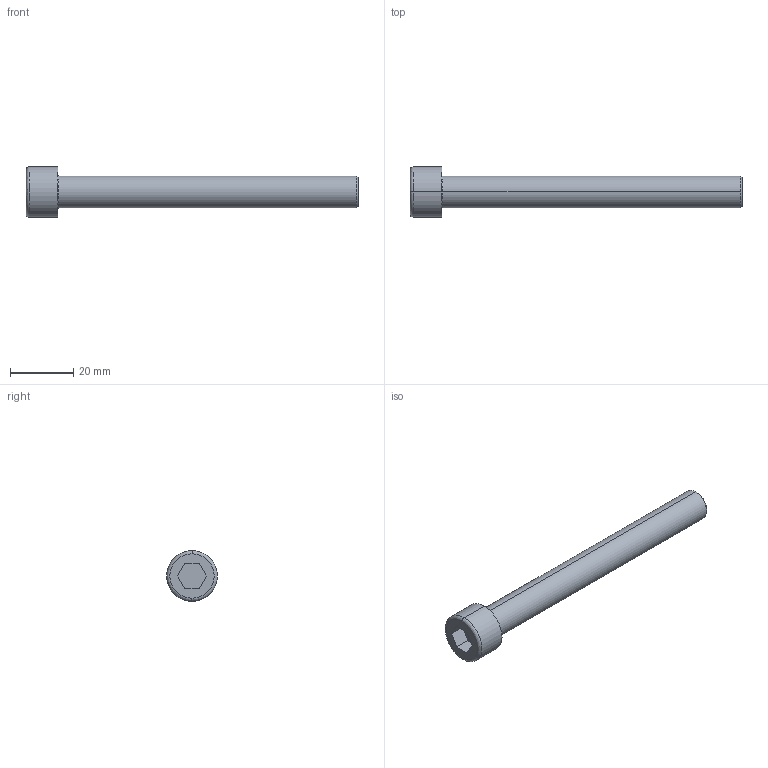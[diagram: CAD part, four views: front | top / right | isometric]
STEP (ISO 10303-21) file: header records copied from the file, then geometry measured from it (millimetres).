
FILE_DESCRIPTION (( 'STEP AP203' ), '1' );
FILE_NAME ('037 Vis CHc M10x95.STEP', '2021-10-27T18:29:29', ( '' ), ( '' ), 'SwSTEP 2.0', 'SolidWorks 2019', '' );
FILE_SCHEMA (( 'CONFIG_CONTROL_DESIGN' ));
Length unit declared in the file: millimetre
Products named in the file (1): 037 Vis CHc M10x95
Bounding box: 105 x 16 x 16 mm (x, y, z)
Volume: 9149.7 mm3; surface area: 5268.4 mm2
Topology: 1 solids, 1 shells, 27 faces, 60 edges, 38 vertices
Faces by surface type: plane 13, cylinder 8, bspline 4, cone 2
Entity records: 873 total; most frequent: CARTESIAN_POINT 186, DIRECTION 134, ORIENTED_EDGE 120, EDGE_CURVE 60, AXIS2_PLACEMENT_3D 50, VERTEX_POINT 38, LINE 34, VECTOR 34
